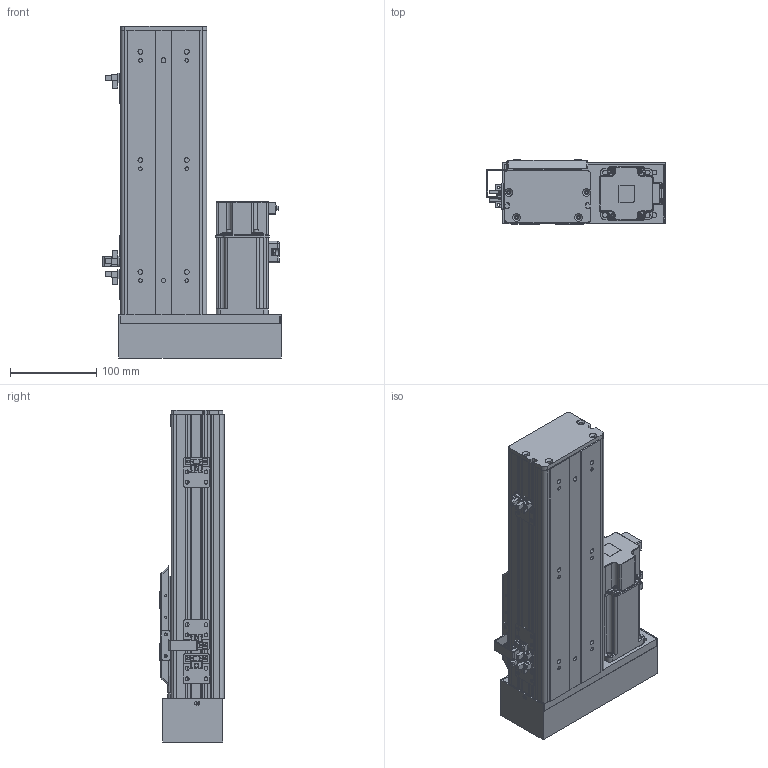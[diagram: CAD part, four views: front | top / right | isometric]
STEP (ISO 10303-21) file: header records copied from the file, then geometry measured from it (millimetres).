
FILE_DESCRIPTION (( 'STEP AP203' ), '1' );
FILE_NAME ('BOSW100-150-1610-1P-LM-M400W-O-S3（方程式2016）.step', '2020-10-10T06:51:34', ( '' ), ( '' ), 'SwSTEP 2.0', 'SolidWorks 2016', '' );
FILE_SCHEMA (( 'CONFIG_CONTROL_DESIGN' ));
Length unit declared in the file: millimetre
Products named in the file (14): BOSW&TW-100-俋离覜茼え; boS-100-LM&RM-三菱M400W马达板-宽轨; 新结构AIMSW-100-1P-宽&高轨共用-滑动座上组件; S400W(SMA-L040); BOSW-100-1P-DM-宽轨-侧板-150客户图纸; BOSW&TW-100-1P-賑雄釱欶; 放大器内置U型微型光电传感器PM-L65; 俋境嫖覜嘐隅啣; AIMS(W)-100-LM&RM-肮祭謫欶; BOSW-100-1P-DM-宽轨-钢带-150客户图纸; BOSW-100-1P-DM-150諦誧芞; BOSW&TW-100-詩湍揤沭(陔賦凳); BOSW100-150-1610-1P-LM-M400W-O-S3（方程式2016）; BOSW-100-綴裔啣
Assembly tree (19 placements, depth 2):
  BOSW100-150-1610-1P-LM-M400W-O-S3（方程式2016）
    BOSW-100-1P-DM-150諦誧芞
    BOSW-100-綴裔啣
    新结构AIMSW-100-1P-宽&高轨共用-滑动座上组件
    S400W(SMA-L040)
    BOSW&TW-100-詩湍揤沭(陔賦凳)  x2
    BOSW&TW-100-1P-賑雄釱欶
    BOSW&TW-100-俋离覜茼え
    俋境嫖覜嘐隅啣  x3
    放大器内置U型微型光电传感器PM-L65  x3
    BOSW-100-1P-DM-宽轨-侧板-150客户图纸  x2
    BOSW-100-1P-DM-宽轨-钢带-150客户图纸
    AIMS(W)-100-LM&RM-肮祭謫欶
    boS-100-LM&RM-三菱M400W马达板-宽轨
Bounding box: 207.9 x 75 x 386 mm (x, y, z)
Volume: 1070295.2 mm3; surface area: 542214.6 mm2
Topology: 19 solids, 20 shells, 2479 faces, 6525 edges, 4159 vertices
Faces by surface type: plane 1235, cylinder 758, bspline 271, cone 167, torus 36, sphere 12
Entity records: 67528 total; most frequent: CARTESIAN_POINT 20398, ORIENTED_EDGE 9590, DIRECTION 9255, EDGE_CURVE 4795, AXIS2_PLACEMENT_3D 3259, VERTEX_POINT 3061, VECTOR 2737, LINE 2737
